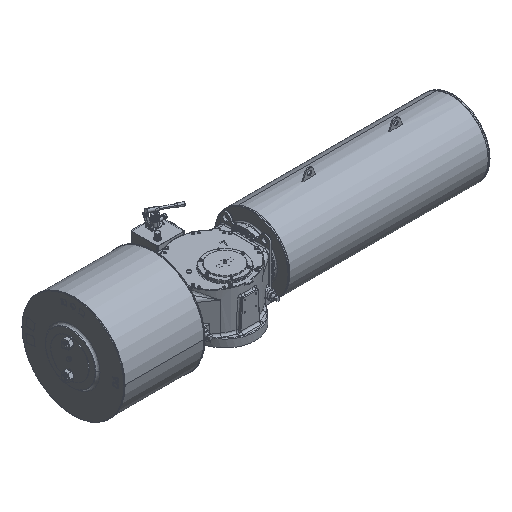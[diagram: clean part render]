
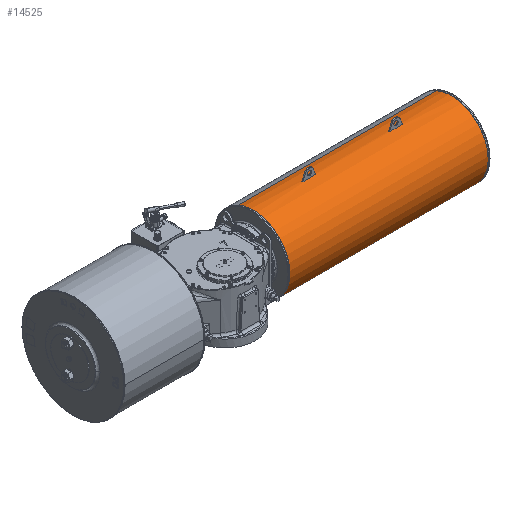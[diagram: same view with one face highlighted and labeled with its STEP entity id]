
A CAD part, isometric view. The second image highlights one B-rep face of the part: STEP entity #14525.
In plain terms, the highlighted cylindrical face has radius 340 mm (diameter 680 mm), a partial arc.
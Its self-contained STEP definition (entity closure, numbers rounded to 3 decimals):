
#1245 = CIRCLE ( 'NONE', #88224, 340. ) ;
#2728 = CARTESIAN_POINT ( 'NONE',  ( 1718., 203., 168. ) ) ;
#4653 = EDGE_CURVE ( 'NONE', #81255, #62722, #41289, .T. ) ;
#4660 = CARTESIAN_POINT ( 'NONE',  ( 1838., 203., 168. ) ) ;
#5027 = CYLINDRICAL_SURFACE ( 'NONE', #71401, 340. ) ;
#5795 = EDGE_CURVE ( 'NONE', #66661, #101252, #91201, .T. ) ;
#6566 = LINE ( 'NONE', #71091, #108423 ) ;
#6837 = VERTEX_POINT ( 'NONE', #123217 ) ;
#7017 = CARTESIAN_POINT ( 'NONE',  ( 918., 198., 507.963 ) ) ;
#7278 = DIRECTION ( 'NONE',  ( 1., 0., 0. ) ) ;
#9492 = ORIENTED_EDGE ( 'NONE', *, *, #32518, .T. ) ;
#10354 = ORIENTED_EDGE ( 'NONE', *, *, #5795, .F. ) ;
#10537 = LINE ( 'NONE', #77182, #75217 ) ;
#11770 = CARTESIAN_POINT ( 'NONE',  ( 1718., 203., 168. ) ) ;
#12806 = CIRCLE ( 'NONE', #22052, 340. ) ;
#12823 = VECTOR ( 'NONE', #116200, 1000. ) ;
#13853 = CARTESIAN_POINT ( 'NONE',  ( 1838., 208., 507.963 ) ) ;
#14525 = ADVANCED_FACE ( 'NONE', ( #126136, #29414, #81015 ), #5027, .T. ) ;
#17954 = DIRECTION ( 'NONE',  ( 0., -0.402, -0.916 ) ) ;
#19754 = EDGE_CURVE ( 'NONE', #91704, #115612, #108607, .T. ) ;
#21027 = VERTEX_POINT ( 'NONE', #130176 ) ;
#22052 = AXIS2_PLACEMENT_3D ( 'NONE', #116927, #115518, #137723 ) ;
#24005 = DIRECTION ( 'NONE',  ( 0., 0., 1. ) ) ;
#24219 = ORIENTED_EDGE ( 'NONE', *, *, #121866, .F. ) ;
#25253 = AXIS2_PLACEMENT_3D ( 'NONE', #4660, #72782, #27630 ) ;
#26554 = CIRCLE ( 'NONE', #56308, 340. ) ;
#27337 = LINE ( 'NONE', #138391, #12823 ) ;
#27398 = DIRECTION ( 'NONE',  ( 1., 0., 0. ) ) ;
#27630 = DIRECTION ( 'NONE',  ( 0., -1., 0. ) ) ;
#29414 = FACE_BOUND ( 'NONE', #99146, .T. ) ;
#29782 = VERTEX_POINT ( 'NONE', #119836 ) ;
#32015 = CARTESIAN_POINT ( 'NONE',  ( 1718., 203., 508. ) ) ;
#32518 = EDGE_CURVE ( 'NONE', #81255, #111497, #27337, .T. ) ;
#33098 = CARTESIAN_POINT ( 'NONE',  ( 1718., 198., 507.963 ) ) ;
#33158 = ORIENTED_EDGE ( 'NONE', *, *, #4653, .F. ) ;
#33496 = VECTOR ( 'NONE', #58752, 1000. ) ;
#35040 = DIRECTION ( 'NONE',  ( 0., 0., -1. ) ) ;
#35263 = CARTESIAN_POINT ( 'NONE',  ( 918., 203., 168. ) ) ;
#36520 = LINE ( 'NONE', #59450, #33496 ) ;
#37023 = DIRECTION ( 'NONE',  ( -1., 0., 0. ) ) ;
#37433 = CARTESIAN_POINT ( 'NONE',  ( 2298., 208., 507.963 ) ) ;
#40028 = EDGE_CURVE ( 'NONE', #66803, #111497, #58421, .T. ) ;
#41289 = CIRCLE ( 'NONE', #25253, 340. ) ;
#42145 = VERTEX_POINT ( 'NONE', #7017 ) ;
#44349 = VECTOR ( 'NONE', #7278, 1000. ) ;
#44541 = AXIS2_PLACEMENT_3D ( 'NONE', #90511, #66885, #89810 ) ;
#46851 = DIRECTION ( 'NONE',  ( 0., 0., -1. ) ) ;
#48778 = DIRECTION ( 'NONE',  ( -1., 0., 0. ) ) ;
#48905 = CIRCLE ( 'NONE', #62636, 340. ) ;
#53096 = CIRCLE ( 'NONE', #108043, 340. ) ;
#54963 = DIRECTION ( 'NONE',  ( -1., 0., 0. ) ) ;
#56308 = AXIS2_PLACEMENT_3D ( 'NONE', #108085, #66994, #24005 ) ;
#58421 = CIRCLE ( 'NONE', #69878, 340. ) ;
#58429 = ORIENTED_EDGE ( 'NONE', *, *, #19754, .F. ) ;
#58752 = DIRECTION ( 'NONE',  ( -1., 0., 0. ) ) ;
#59450 = CARTESIAN_POINT ( 'NONE',  ( 2298., 66.339, -143.326 ) ) ;
#60459 = CARTESIAN_POINT ( 'NONE',  ( 1838., 203., 508. ) ) ;
#62636 = AXIS2_PLACEMENT_3D ( 'NONE', #35263, #100483, #78959 ) ;
#62722 = VERTEX_POINT ( 'NONE', #60459 ) ;
#62931 = CARTESIAN_POINT ( 'NONE',  ( 1038., 198., 507.963 ) ) ;
#63570 = VECTOR ( 'NONE', #27398, 1000. ) ;
#64540 = EDGE_CURVE ( 'NONE', #102742, #110126, #12806, .T. ) ;
#64801 = EDGE_CURVE ( 'NONE', #29782, #110126, #36520, .T. ) ;
#66661 = VERTEX_POINT ( 'NONE', #95855 ) ;
#66803 = VERTEX_POINT ( 'NONE', #32015 ) ;
#66885 = DIRECTION ( 'NONE',  ( -1., 0., 0. ) ) ;
#66994 = DIRECTION ( 'NONE',  ( -1., 0., 0. ) ) ;
#67125 = CARTESIAN_POINT ( 'NONE',  ( 1838., 198., 507.963 ) ) ;
#69878 = AXIS2_PLACEMENT_3D ( 'NONE', #2728, #133185, #35040 ) ;
#71091 = CARTESIAN_POINT ( 'NONE',  ( 2298., 339.661, 479.326 ) ) ;
#71401 = AXIS2_PLACEMENT_3D ( 'NONE', #103967, #48778, #17954 ) ;
#72782 = DIRECTION ( 'NONE',  ( -1., 0., 0. ) ) ;
#74758 = EDGE_CURVE ( 'NONE', #62722, #85106, #53096, .T. ) ;
#75217 = VECTOR ( 'NONE', #54963, 1000. ) ;
#77182 = CARTESIAN_POINT ( 'NONE',  ( 2298., 208., 507.963 ) ) ;
#77938 = EDGE_CURVE ( 'NONE', #101252, #42145, #48905, .T. ) ;
#78959 = DIRECTION ( 'NONE',  ( 0., 1., 0. ) ) ;
#80627 = ORIENTED_EDGE ( 'NONE', *, *, #40028, .F. ) ;
#81015 = FACE_OUTER_BOUND ( 'NONE', #129853, .T. ) ;
#81255 = VERTEX_POINT ( 'NONE', #67125 ) ;
#85106 = VERTEX_POINT ( 'NONE', #13853 ) ;
#87328 = VERTEX_POINT ( 'NONE', #62931 ) ;
#88224 = AXIS2_PLACEMENT_3D ( 'NONE', #127064, #117043, #139234 ) ;
#89810 = DIRECTION ( 'NONE',  ( 0., 0., 1. ) ) ;
#89839 = ORIENTED_EDGE ( 'NONE', *, *, #116538, .T. ) ;
#90511 = CARTESIAN_POINT ( 'NONE',  ( 1038., 203., 168. ) ) ;
#91201 = CIRCLE ( 'NONE', #127833, 340. ) ;
#91704 = VERTEX_POINT ( 'NONE', #103060 ) ;
#95855 = CARTESIAN_POINT ( 'NONE',  ( 918., 208., 507.963 ) ) ;
#97158 = CARTESIAN_POINT ( 'NONE',  ( 918., 203., 168. ) ) ;
#97935 = CARTESIAN_POINT ( 'NONE',  ( 918., 203., 508. ) ) ;
#98695 = ORIENTED_EDGE ( 'NONE', *, *, #121043, .F. ) ;
#99146 = EDGE_LOOP ( 'NONE', ( #58429, #113660, #98695, #126058, #10354, #116233 ) ) ;
#99495 = CARTESIAN_POINT ( 'NONE',  ( 1038., 208., 507.963 ) ) ;
#100483 = DIRECTION ( 'NONE',  ( 1., 0., 0. ) ) ;
#101252 = VERTEX_POINT ( 'NONE', #97935 ) ;
#102742 = VERTEX_POINT ( 'NONE', #140774 ) ;
#103060 = CARTESIAN_POINT ( 'NONE',  ( 1038., 203., 508. ) ) ;
#103967 = CARTESIAN_POINT ( 'NONE',  ( 2298., 203., 168. ) ) ;
#106297 = EDGE_CURVE ( 'NONE', #21027, #66803, #116194, .T. ) ;
#107587 = ORIENTED_EDGE ( 'NONE', *, *, #106297, .F. ) ;
#108043 = AXIS2_PLACEMENT_3D ( 'NONE', #134496, #37023, #114407 ) ;
#108085 = CARTESIAN_POINT ( 'NONE',  ( 1038., 203., 168. ) ) ;
#108423 = VECTOR ( 'NONE', #126258, 1000. ) ;
#108607 = CIRCLE ( 'NONE', #44541, 340. ) ;
#110126 = VERTEX_POINT ( 'NONE', #136152 ) ;
#111379 = DIRECTION ( 'NONE',  ( 1., 0., 0. ) ) ;
#111497 = VERTEX_POINT ( 'NONE', #33098 ) ;
#113660 = ORIENTED_EDGE ( 'NONE', *, *, #117366, .F. ) ;
#114407 = DIRECTION ( 'NONE',  ( 0., -1., 0. ) ) ;
#114971 = EDGE_CURVE ( 'NONE', #6837, #102742, #6566, .T. ) ;
#114979 = EDGE_CURVE ( 'NONE', #66661, #115612, #124829, .T. ) ;
#115518 = DIRECTION ( 'NONE',  ( 1., 0., 0. ) ) ;
#115536 = LINE ( 'NONE', #125546, #63570 ) ;
#115612 = VERTEX_POINT ( 'NONE', #99495 ) ;
#116194 = CIRCLE ( 'NONE', #125344, 340. ) ;
#116200 = DIRECTION ( 'NONE',  ( -1., 0., 0. ) ) ;
#116233 = ORIENTED_EDGE ( 'NONE', *, *, #114979, .T. ) ;
#116538 = EDGE_CURVE ( 'NONE', #29782, #6837, #1245, .T. ) ;
#116927 = CARTESIAN_POINT ( 'NONE',  ( 462.615, 203., 168. ) ) ;
#117043 = DIRECTION ( 'NONE',  ( -1., 0., 0. ) ) ;
#117366 = EDGE_CURVE ( 'NONE', #87328, #91704, #26554, .T. ) ;
#119836 = CARTESIAN_POINT ( 'NONE',  ( 2293.385, 66.339, -143.326 ) ) ;
#121043 = EDGE_CURVE ( 'NONE', #42145, #87328, #115536, .T. ) ;
#121866 = EDGE_CURVE ( 'NONE', #85106, #21027, #10537, .T. ) ;
#122129 = EDGE_LOOP ( 'NONE', ( #33158, #9492, #80627, #107587, #24219, #127363 ) ) ;
#123217 = CARTESIAN_POINT ( 'NONE',  ( 2293.385, 339.661, 479.326 ) ) ;
#124829 = LINE ( 'NONE', #37433, #44349 ) ;
#125344 = AXIS2_PLACEMENT_3D ( 'NONE', #11770, #111379, #46851 ) ;
#125546 = CARTESIAN_POINT ( 'NONE',  ( 2298., 198., 507.963 ) ) ;
#126058 = ORIENTED_EDGE ( 'NONE', *, *, #77938, .F. ) ;
#126136 = FACE_BOUND ( 'NONE', #122129, .T. ) ;
#126258 = DIRECTION ( 'NONE',  ( -1., 0., 0. ) ) ;
#126336 = ORIENTED_EDGE ( 'NONE', *, *, #64801, .F. ) ;
#126998 = ORIENTED_EDGE ( 'NONE', *, *, #64540, .T. ) ;
#127064 = CARTESIAN_POINT ( 'NONE',  ( 2293.385, 203., 168. ) ) ;
#127363 = ORIENTED_EDGE ( 'NONE', *, *, #74758, .F. ) ;
#127833 = AXIS2_PLACEMENT_3D ( 'NONE', #97158, #138050, #128684 ) ;
#128684 = DIRECTION ( 'NONE',  ( 0., 1., 0. ) ) ;
#129853 = EDGE_LOOP ( 'NONE', ( #89839, #136905, #126998, #126336 ) ) ;
#130176 = CARTESIAN_POINT ( 'NONE',  ( 1718., 208., 507.963 ) ) ;
#133185 = DIRECTION ( 'NONE',  ( 1., 0., 0. ) ) ;
#134496 = CARTESIAN_POINT ( 'NONE',  ( 1838., 203., 168. ) ) ;
#136152 = CARTESIAN_POINT ( 'NONE',  ( 462.615, 66.339, -143.326 ) ) ;
#136905 = ORIENTED_EDGE ( 'NONE', *, *, #114971, .T. ) ;
#137723 = DIRECTION ( 'NONE',  ( 0., 0.402, 0.916 ) ) ;
#138050 = DIRECTION ( 'NONE',  ( 1., 0., 0. ) ) ;
#138391 = CARTESIAN_POINT ( 'NONE',  ( 2298., 198., 507.963 ) ) ;
#139234 = DIRECTION ( 'NONE',  ( 0., 0.402, 0.916 ) ) ;
#140774 = CARTESIAN_POINT ( 'NONE',  ( 462.615, 339.661, 479.326 ) ) ;
